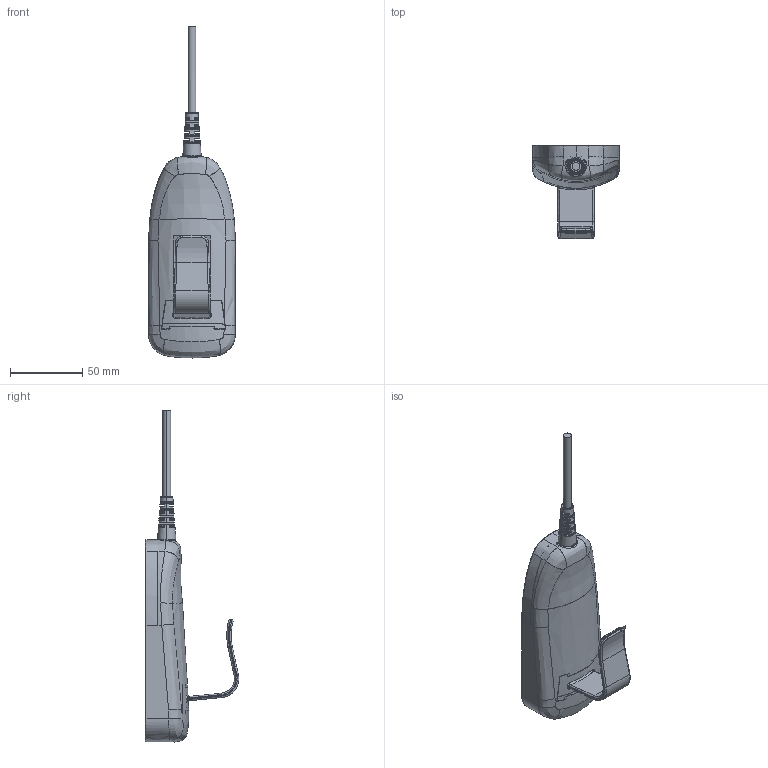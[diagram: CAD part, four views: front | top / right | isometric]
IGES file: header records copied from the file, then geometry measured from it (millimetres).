
Start section: SolidWorks IGES file using NURBS representation for surfaces
Global section: file name: C:\Users\lynn\Desktop\hs13.IGS; native system: SolidWorks 2015; preprocessor: SolidWorks 2015; author: lynn; date: 200819.094809; units: millimetre
Bounding box: 60 x 64.75 x 230 mm (x, y, z)
Surface area: 61774.7 mm2 (no closed solid volume)
Topology: 0 solids, 0 shells, 908 faces, 10147 edges, 10112 vertices
Faces by surface type: bspline 908
